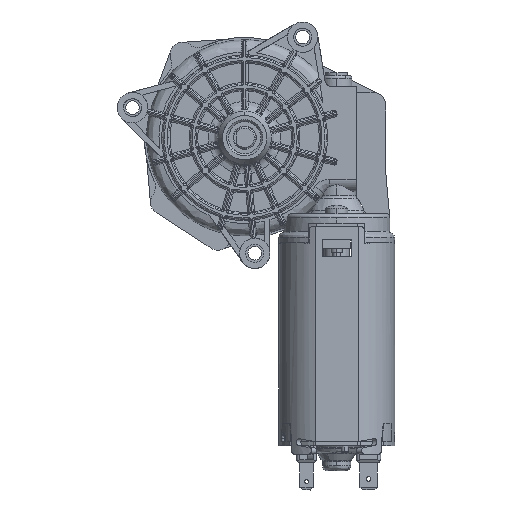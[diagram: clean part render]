
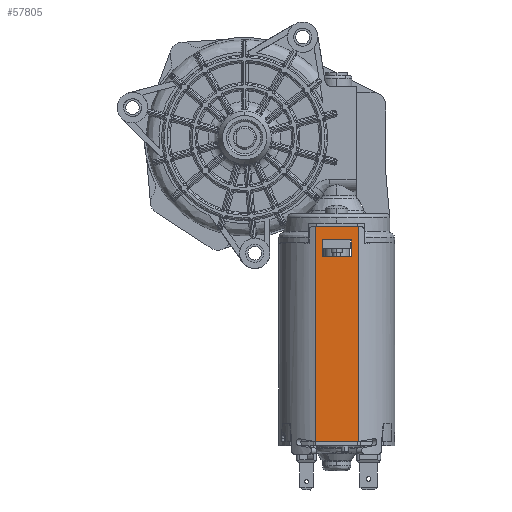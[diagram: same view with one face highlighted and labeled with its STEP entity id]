
A CAD part, left-side view. The second image highlights one B-rep face of the part: STEP entity #57805.
In plain terms, the highlighted planar face has unit normal (-1, 0, 0).
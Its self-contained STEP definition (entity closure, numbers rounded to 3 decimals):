
#1419 = DIRECTION ( 'NONE',  ( 0., 1., 0. ) ) ;
#3542 = ORIENTED_EDGE ( 'NONE', *, *, #37770, .F. ) ;
#9552 = EDGE_CURVE ( 'NONE', #172552, #151492, #72433, .T. ) ;
#12877 = VERTEX_POINT ( 'NONE', #60777 ) ;
#13055 = ORIENTED_EDGE ( 'NONE', *, *, #34163, .F. ) ;
#15923 = CARTESIAN_POINT ( 'NONE',  ( -19.409, 5.191, -4.952 ) ) ;
#21005 = LINE ( 'NONE', #36850, #57208 ) ;
#22140 = LINE ( 'NONE', #63791, #85998 ) ;
#23316 = DIRECTION ( 'NONE',  ( 0., 0., -1. ) ) ;
#24578 = ORIENTED_EDGE ( 'NONE', *, *, #44052, .F. ) ;
#27694 = EDGE_CURVE ( 'NONE', #151492, #126956, #54680, .T. ) ;
#30914 = CARTESIAN_POINT ( 'NONE',  ( -19.409, 7.735, 0.048 ) ) ;
#30930 = DIRECTION ( 'NONE',  ( 0., -0.994, -0.108 ) ) ;
#32056 = EDGE_CURVE ( 'NONE', #149316, #12877, #66907, .T. ) ;
#32277 = LINE ( 'NONE', #152530, #64356 ) ;
#32466 = VERTEX_POINT ( 'NONE', #42367 ) ;
#34163 = EDGE_CURVE ( 'NONE', #103023, #35427, #32277, .T. ) ;
#35427 = VERTEX_POINT ( 'NONE', #15923 ) ;
#36503 = EDGE_CURVE ( 'NONE', #42359, #32466, #168003, .T. ) ;
#36850 = CARTESIAN_POINT ( 'NONE',  ( -19.409, 7.735, -4.952 ) ) ;
#37770 = EDGE_CURVE ( 'NONE', #35427, #42359, #21005, .T. ) ;
#40025 = CARTESIAN_POINT ( 'NONE',  ( -19.409, -7.492, -71.952 ) ) ;
#40883 = VECTOR ( 'NONE', #106252, 1000. ) ;
#42359 = VERTEX_POINT ( 'NONE', #80265 ) ;
#42367 = CARTESIAN_POINT ( 'NONE',  ( -19.409, -5.309, 1.048 ) ) ;
#43272 = EDGE_CURVE ( 'NONE', #32466, #103023, #149579, .T. ) ;
#43302 = EDGE_LOOP ( 'NONE', ( #120866, #24578, #166710, #139408, #124406, #57328 ) ) ;
#44009 = CARTESIAN_POINT ( 'NONE',  ( -19.409, 7.735, -71.913 ) ) ;
#44052 = EDGE_CURVE ( 'NONE', #12877, #91852, #172610, .T. ) ;
#44757 = ORIENTED_EDGE ( 'NONE', *, *, #43272, .F. ) ;
#45163 = DIRECTION ( 'NONE',  ( 0., 0., -1. ) ) ;
#50215 = ORIENTED_EDGE ( 'NONE', *, *, #36503, .F. ) ;
#50577 = DIRECTION ( 'NONE',  ( 0., -1., 0. ) ) ;
#51628 = CARTESIAN_POINT ( 'NONE',  ( -19.409, -7.853, -71.913 ) ) ;
#54680 = LINE ( 'NONE', #69781, #122873 ) ;
#55581 = VECTOR ( 'NONE', #30930, 1000. ) ;
#57208 = VECTOR ( 'NONE', #50577, 1000. ) ;
#57328 = ORIENTED_EDGE ( 'NONE', *, *, #9552, .F. ) ;
#57781 = DIRECTION ( 'NONE',  ( 0., -1., 0. ) ) ;
#57805 = ADVANCED_FACE ( 'NONE', ( #106593, #70419 ), #85741, .F. ) ;
#60777 = CARTESIAN_POINT ( 'NONE',  ( -19.409, 7.735, 6.048 ) ) ;
#61755 = EDGE_LOOP ( 'NONE', ( #3542, #13055, #44757, #50215 ) ) ;
#63791 = CARTESIAN_POINT ( 'NONE',  ( -19.409, -7.853, -35.952 ) ) ;
#64356 = VECTOR ( 'NONE', #138907, 1000. ) ;
#66907 = LINE ( 'NONE', #76097, #135028 ) ;
#69781 = CARTESIAN_POINT ( 'NONE',  ( -19.409, 7.735, -71.952 ) ) ;
#70419 = FACE_OUTER_BOUND ( 'NONE', #43302, .T. ) ;
#71037 = EDGE_CURVE ( 'NONE', #149316, #126956, #96051, .T. ) ;
#72433 = LINE ( 'NONE', #168620, #104374 ) ;
#72773 = VECTOR ( 'NONE', #57781, 1000. ) ;
#76097 = CARTESIAN_POINT ( 'NONE',  ( -19.409, 7.735, 0.048 ) ) ;
#80265 = CARTESIAN_POINT ( 'NONE',  ( -19.409, -5.309, -4.952 ) ) ;
#85741 = PLANE ( 'NONE',  #119267 ) ;
#85998 = VECTOR ( 'NONE', #23316, 1000. ) ;
#90379 = DIRECTION ( 'NONE',  ( 0., 0., 1. ) ) ;
#91852 = VERTEX_POINT ( 'NONE', #135041 ) ;
#96051 = LINE ( 'NONE', #44009, #55581 ) ;
#103023 = VERTEX_POINT ( 'NONE', #117021 ) ;
#104374 = VECTOR ( 'NONE', #141428, 1000. ) ;
#106252 = DIRECTION ( 'NONE',  ( 0., 1., 0. ) ) ;
#106593 = FACE_BOUND ( 'NONE', #61755, .T. ) ;
#117021 = CARTESIAN_POINT ( 'NONE',  ( -19.409, 5.191, 1.048 ) ) ;
#119267 = AXIS2_PLACEMENT_3D ( 'NONE', #30914, #126834, #45163 ) ;
#119534 = CARTESIAN_POINT ( 'NONE',  ( -19.409, -5.309, 0.048 ) ) ;
#120866 = ORIENTED_EDGE ( 'NONE', *, *, #128908, .F. ) ;
#122873 = VECTOR ( 'NONE', #1419, 1000. ) ;
#124406 = ORIENTED_EDGE ( 'NONE', *, *, #27694, .F. ) ;
#126834 = DIRECTION ( 'NONE',  ( 1., 0., 0. ) ) ;
#126956 = VERTEX_POINT ( 'NONE', #163833 ) ;
#128908 = EDGE_CURVE ( 'NONE', #91852, #172552, #22140, .T. ) ;
#131881 = CARTESIAN_POINT ( 'NONE',  ( -19.409, 7.735, 1.048 ) ) ;
#131972 = VECTOR ( 'NONE', #160538, 1000. ) ;
#135028 = VECTOR ( 'NONE', #90379, 1000. ) ;
#135041 = CARTESIAN_POINT ( 'NONE',  ( -19.409, -7.853, 6.048 ) ) ;
#138907 = DIRECTION ( 'NONE',  ( 0., 0., -1. ) ) ;
#139408 = ORIENTED_EDGE ( 'NONE', *, *, #71037, .T. ) ;
#141428 = DIRECTION ( 'NONE',  ( 0., 0.994, -0.108 ) ) ;
#149316 = VERTEX_POINT ( 'NONE', #168665 ) ;
#149579 = LINE ( 'NONE', #131881, #40883 ) ;
#151492 = VERTEX_POINT ( 'NONE', #40025 ) ;
#152530 = CARTESIAN_POINT ( 'NONE',  ( -19.409, 5.191, 0.048 ) ) ;
#152942 = CARTESIAN_POINT ( 'NONE',  ( -19.409, 7.735, 6.048 ) ) ;
#160538 = DIRECTION ( 'NONE',  ( 0., 0., 1. ) ) ;
#163833 = CARTESIAN_POINT ( 'NONE',  ( -19.409, 7.374, -71.952 ) ) ;
#166710 = ORIENTED_EDGE ( 'NONE', *, *, #32056, .F. ) ;
#168003 = LINE ( 'NONE', #119534, #131972 ) ;
#168620 = CARTESIAN_POINT ( 'NONE',  ( -19.409, -7.853, -71.913 ) ) ;
#168665 = CARTESIAN_POINT ( 'NONE',  ( -19.409, 7.735, -71.913 ) ) ;
#172552 = VERTEX_POINT ( 'NONE', #51628 ) ;
#172610 = LINE ( 'NONE', #152942, #72773 ) ;
